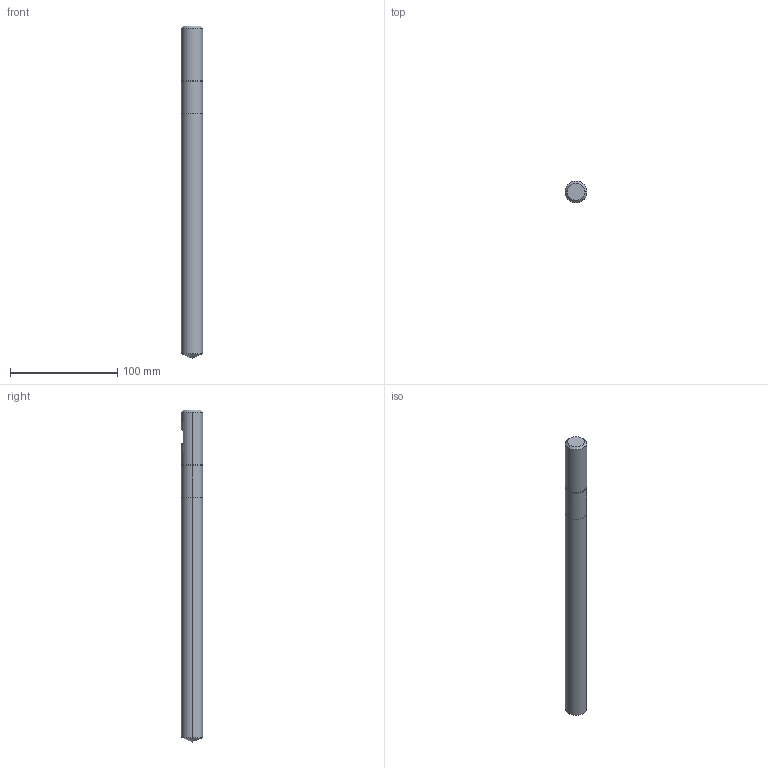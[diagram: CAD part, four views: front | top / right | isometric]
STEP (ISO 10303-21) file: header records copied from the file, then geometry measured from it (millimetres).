
FILE_DESCRIPTION (( 'STEP AP214' ), '1' );
FILE_NAME ('710.198.10_3D-model.step', '2022-02-22T18:07:30', ( '' ), ( '' ), 'SwSTEP 2.0', 'SolidWorks 2020', '' );
FILE_SCHEMA (( 'AUTOMOTIVE_DESIGN' ));
Length unit declared in the file: millimetre
Products named in the file (3): CUT-3D^Baugr8; NOCUT-3D^Baugr8; 710.198.10_3D-model
Assembly tree (2 placements, depth 2):
  710.198.10_3D-model
    CUT-3D^Baugr8
    NOCUT-3D^Baugr8
Bounding box: 20 x 20 x 310 mm (x, y, z)
Volume: 94639.4 mm3; surface area: 20247.7 mm2
Topology: 2 solids, 2 shells, 18 faces, 34 edges, 19 vertices
Faces by surface type: cylinder 6, plane 6, cone 4, torus 2
Entity records: 558 total; most frequent: DIRECTION 98, CARTESIAN_POINT 83, ORIENTED_EDGE 64, AXIS2_PLACEMENT_3D 42, EDGE_CURVE 32, EDGE_LOOP 19, VERTEX_POINT 19, FACE_OUTER_BOUND 18
